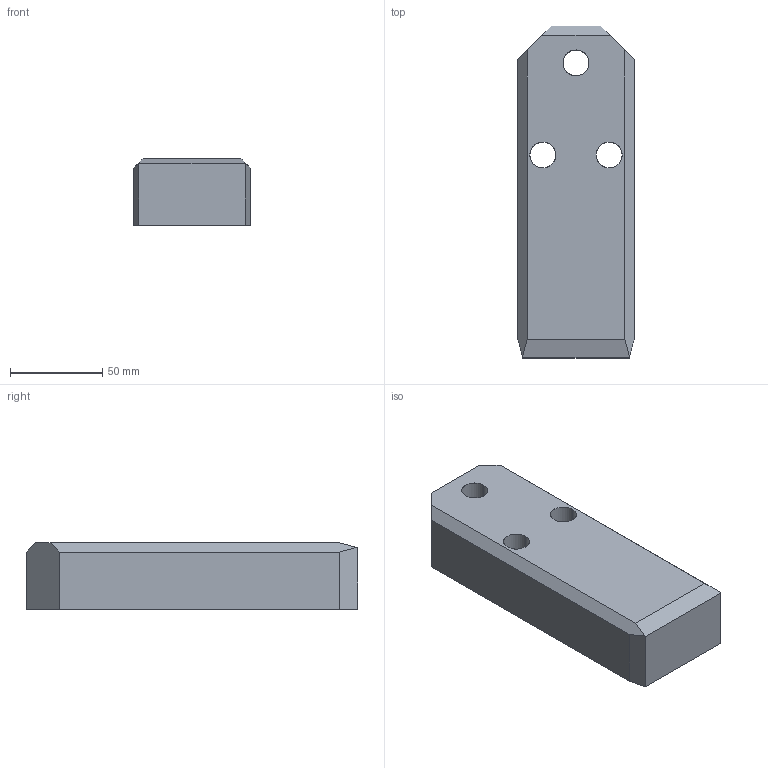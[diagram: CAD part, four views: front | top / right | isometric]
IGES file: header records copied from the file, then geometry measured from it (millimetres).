
Start section: START RECORD GO HERE.
Global section: file name: A927-63X180X36.igs; native system: DASSAULT SYSTEMES CATIA V5 R20 - www.3ds.com; preprocessor: CATIA Version 5 Release 20 ; author: Utente; organization: NB04-ASUS; date: 20200408.200044; units: millimetre
Bounding box: 63 x 180 x 36 mm (x, y, z)
Surface area: 41862.7 mm2 (no closed solid volume)
Topology: 0 solids, 0 shells, 35 faces, 168 edges, 168 vertices
Faces by surface type: revolution 18, extrusion 17
